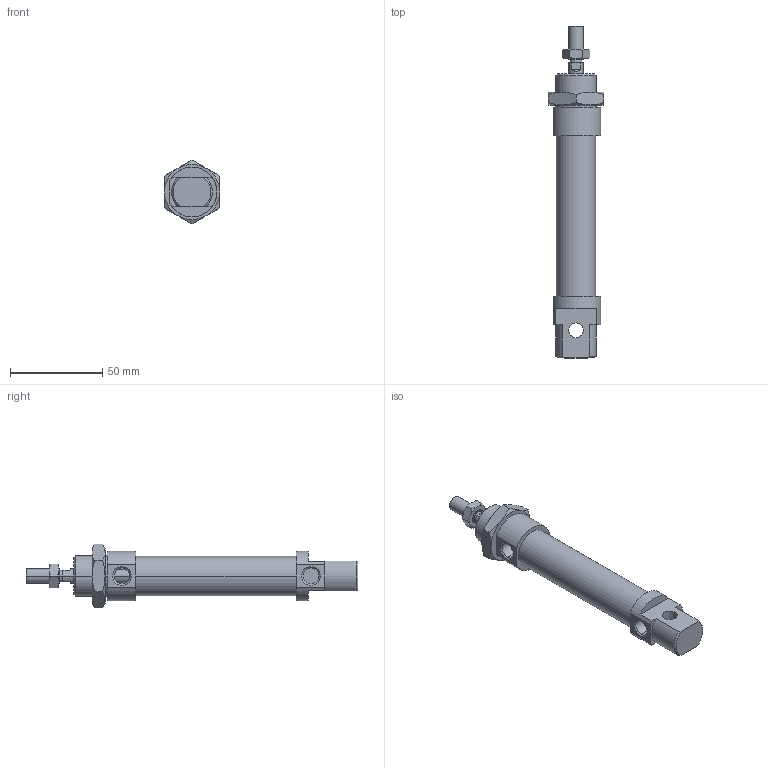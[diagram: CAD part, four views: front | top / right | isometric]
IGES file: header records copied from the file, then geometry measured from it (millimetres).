
Global section: file name: No Iges File Name specified; native system: Autodesk Inventor 2010; preprocessor: AutoDesk Inventor Iges Exporter R2010; author: rivolro1; date: 20090604.093251; units: millimetre
Bounding box: 30 x 180 x 34.64 mm (x, y, z)
Volume: 62006.2 mm3; surface area: 20374.8 mm2
Topology: 4 solids, 4 shells, 110 faces, 249 edges, 152 vertices
Faces by surface type: plane 41, cone 28, bspline 21, cylinder 14, revolution 6
